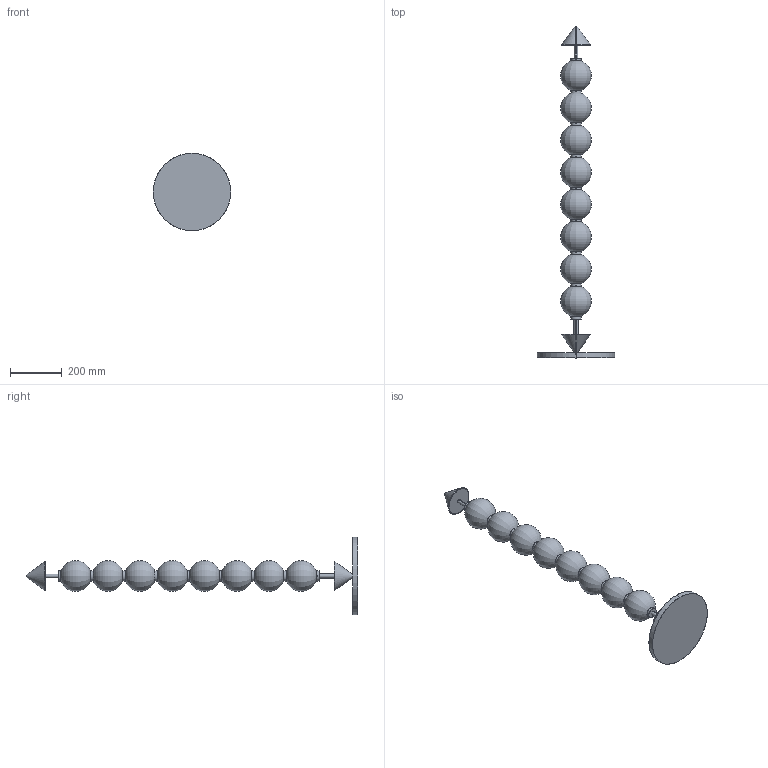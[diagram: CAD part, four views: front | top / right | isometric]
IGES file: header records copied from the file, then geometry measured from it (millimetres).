
Start section: SolidWorks IGES file using analytic representation for surfaces
Global section: file name: C:\Users\Agustin\Desktop\ENERO 2025\2D-3D\2D-3D SOKO 1335\SOKO_P1335\SOKO_P1335.IGS; native system: SolidWorks 2018; preprocessor: SolidWorks 2018; author: Agustin; date: 250117.151736; units: millimetre
Bounding box: 300 x 1287.49 x 300 mm (x, y, z)
Surface area: 982346.6 mm2 (no closed solid volume)
Topology: 0 solids, 0 shells, 80 faces, 1792 edges, 1776 vertices
Faces by surface type: revolution 44, bspline 36
